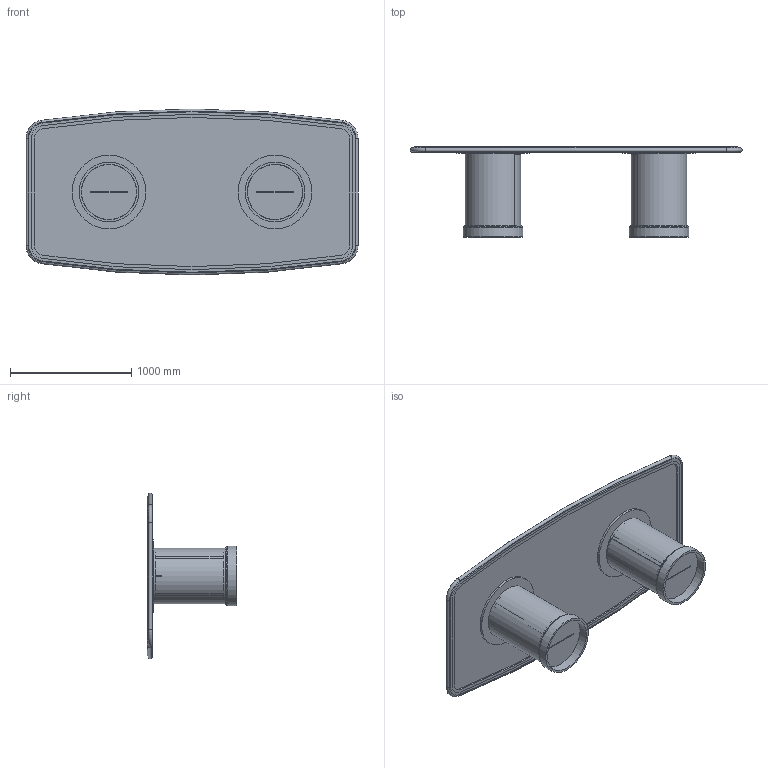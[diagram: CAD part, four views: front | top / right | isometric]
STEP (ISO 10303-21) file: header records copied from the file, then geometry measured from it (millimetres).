
FILE_DESCRIPTION(/* description */ ('','CAx-IF Rec.Pracs.---Representation and Presentation of Product Manufacturing Information (PMI)---4.0---2014-10-13'),/* implementation_level */ '2;1');
FILE_NAME(/* name */ 'TABLE_CAMBRIDGE 3.stp',/* time_stamp */ '2024-12-07T17:23:56-05:00',/* author */ ('mbowman'),/* organization */ (''),/* preprocessor_version */ 'ST-DEVELOPER v19.2',/* originating_system */ 'Autodesk Inventor 2023',/* authorisation */ '');
FILE_SCHEMA (('AP242_MANAGED_MODEL_BASED_3D_ENGINEERING_MIM_LF { 1 0 10303 442 1 1 4 }'));
Length unit declared in the file: inch
Products named in the file (15): CAMBRIDGE^TABLE 3_2 BASE BOAT-ASSEMBLY; CAMBRIDGE^TABLE 3_2 BASE BOAT-TOP; CAMBRIDGE^TABLE 3_2 BASE BOAT-TOP SOLID; CAMBRIDGE^TABLE 3_2 BASE BOAT-TOP BLOCKING; CAMBRIDGE^TABLE 3_2 BASE BOAT-SUB TOP; CAMBRIDGE^TABLE 3_2 BASE BOAT-BASE SHELL; CAMBRIDGE^TABLE 3_2 BASE BOAT-BASE TOP; CAMBRIDGE^TABLE 3_2 BASE BOAT-BASE DOOR; CAMBRIDGE^TABLE 3_2 BASE BOAT-BASE BOTTOM; CAMBRIDGE^TABLE 3_2 BASE BOAT-PLINTH TOP; CAMBRIDGE^TABLE 3_2 BASE BOAT-PLINTH SOLID; CAMBRIDGE^TABLE 3_2 BASE BOAT-BASE BACK PARTITION; CAMBRIDGE^TABLE 3_2 BASE BOAT-BASE SIDE PARTITION; BALAST BLOCK; BALLAST BLOCK BRACKET - (H-577)
Assembly tree (35 placements, depth 2):
  CAMBRIDGE^TABLE 3_2 BASE BOAT-ASSEMBLY
    CAMBRIDGE^TABLE 3_2 BASE BOAT-TOP
    CAMBRIDGE^TABLE 3_2 BASE BOAT-TOP SOLID
    CAMBRIDGE^TABLE 3_2 BASE BOAT-TOP BLOCKING
    CAMBRIDGE^TABLE 3_2 BASE BOAT-SUB TOP  x2
    CAMBRIDGE^TABLE 3_2 BASE BOAT-BASE SHELL  x2
    CAMBRIDGE^TABLE 3_2 BASE BOAT-BASE TOP  x2
    CAMBRIDGE^TABLE 3_2 BASE BOAT-BASE DOOR  x2
    CAMBRIDGE^TABLE 3_2 BASE BOAT-BASE BOTTOM  x2
    CAMBRIDGE^TABLE 3_2 BASE BOAT-PLINTH TOP  x2
    CAMBRIDGE^TABLE 3_2 BASE BOAT-PLINTH SOLID  x2
    CAMBRIDGE^TABLE 3_2 BASE BOAT-BASE SIDE PARTITION  x4
    CAMBRIDGE^TABLE 3_2 BASE BOAT-BASE BACK PARTITION  x2
    BALAST BLOCK  x4
    BALLAST BLOCK BRACKET - (H-577)  x8
Bounding box: 2743.16 x 742.95 x 1371.56 mm (x, y, z)
Volume: 206108851.7 mm3; surface area: 18816443.5 mm2
Topology: 35 solids, 35 shells, 380 faces, 860 edges, 562 vertices
Faces by surface type: plane 262, cylinder 90, torus 22, cone 6
Full cylindrical faces by diameter (mm): 4.762 x24, 441.325 x4, 457.2 x4, 469.9 x2, 495.3 x2, 609.6 x2
Entity records: 7017 total; most frequent: DIRECTION 1312, CARTESIAN_POINT 1125, ORIENTED_EDGE 774, AXIS2_PLACEMENT_3D 537, EDGE_CURVE 387, VERTEX_POINT 247, LINE 238, VECTOR 238
